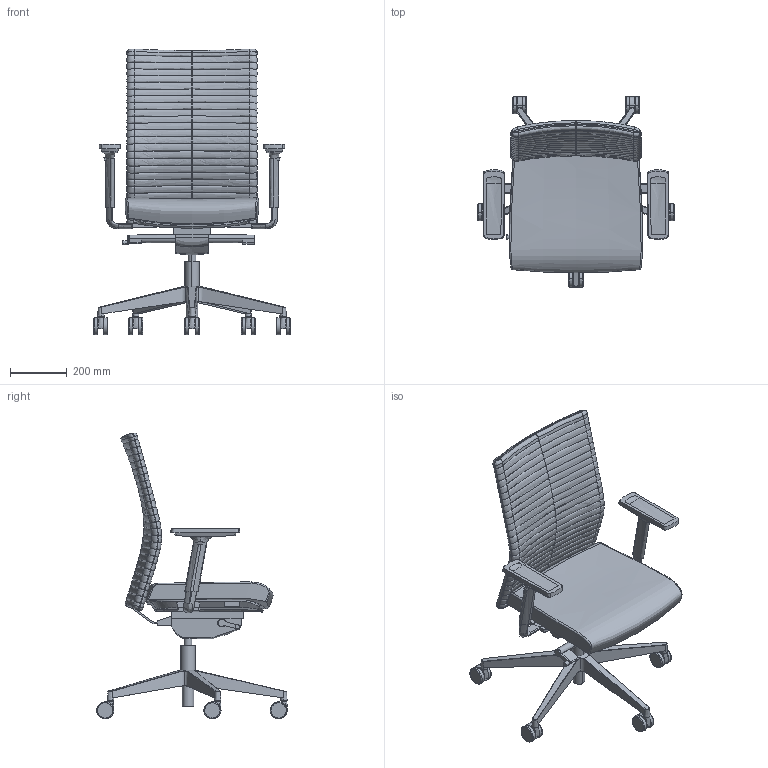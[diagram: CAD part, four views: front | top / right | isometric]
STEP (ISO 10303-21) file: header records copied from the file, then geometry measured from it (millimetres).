
FILE_DESCRIPTION(/* description */ (''),/* implementation_level */ '2;1');
FILE_NAME(/* name */ 'ELEMEN~1',/* time_stamp */ '2017-07-24T16:51:02+02:00',/* author */ (''),/* organization */ (''),/* preprocessor_version */ 'ST-DEVELOPER v15',/* originating_system */ '',/* authorisation */ '');
FILE_SCHEMA (('CONFIG_CONTROL_DESIGN'));
Length unit declared in the file: millimetre
Products named in the file (1): Document
Bounding box: 694.82 x 673.73 x 1010.79 mm (x, y, z)
Volume: 4425737.9 mm3; surface area: 2226981 mm2
Topology: 19 solids, 47 shells, 720 faces, 1670 edges, 988 vertices
Faces by surface type: bspline 575, plane 145
Entity records: 55890 total; most frequent: CARTESIAN_POINT 45828, ORIENTED_EDGE 3043, EDGE_CURVE 1650, B_SPLINE_CURVE_WITH_KNOTS 1191, VERTEX_POINT 982, EDGE_LOOP 724, ADVANCED_FACE 720, FACE_OUTER_BOUND 720
